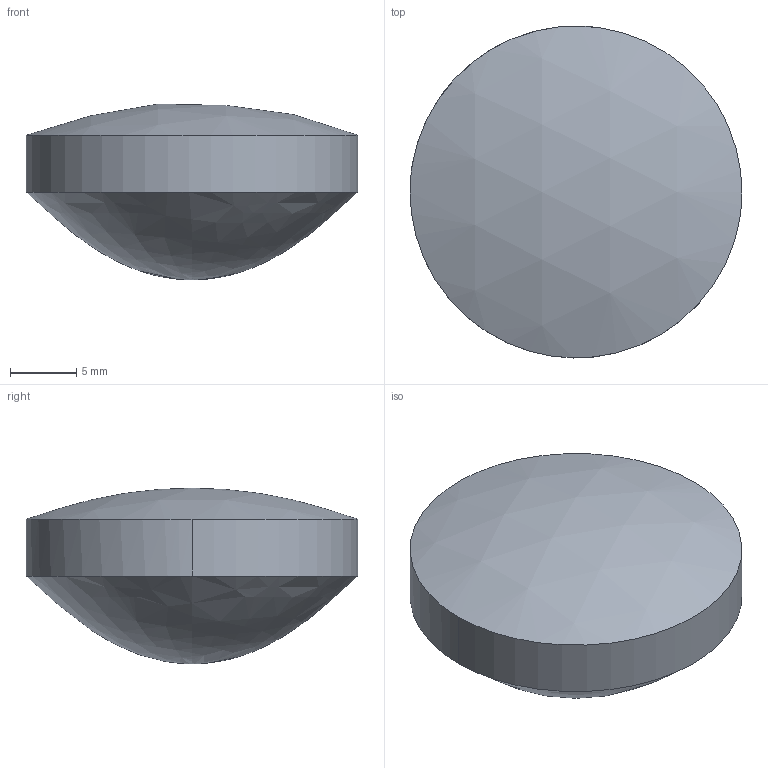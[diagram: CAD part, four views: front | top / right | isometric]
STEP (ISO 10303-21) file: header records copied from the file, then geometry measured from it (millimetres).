
FILE_DESCRIPTION ((), '1');
FILE_NAME ('D:\Applikationen\Optikdesign\StockOptics\Neuentwicklung StockOptics-Designs\AFL Aspheres\AFL25-20 (010710)\ZAS-010710-500-01A Linse Dmr.25_200902_LKI.STP', '2020-09-02T09:35:41', ('Unknown'), ('Unknown'), 'HarmonyWare STEP v2.0.6', 'HarmonyWare Translators', '');
FILE_SCHEMA (('CONFIG_CONTROL_DESIGN'));
Length unit declared in the file: millimetre
Products named in the file (2): NONE
Bounding box: 25 x 25 x 13.23 mm (x, y, z)
Volume: 4292.6 mm3; surface area: 1451.1 mm2
Topology: 1 solids, 1 shells, 4 faces, 27 edges, 42 vertices
Faces by surface type: cylinder 2, bspline 1, sphere 1
Entity records: 583 total; most frequent: CARTESIAN_POINT 268, DIRECTION 24, VECTOR 18, LINE 18, TRIMMED_CURVE 18, ORIENTED_EDGE 16, PERSON 16, ORGANIZATION 16
